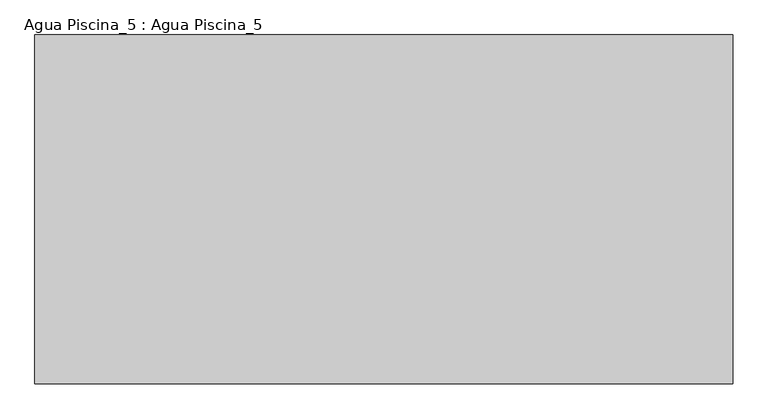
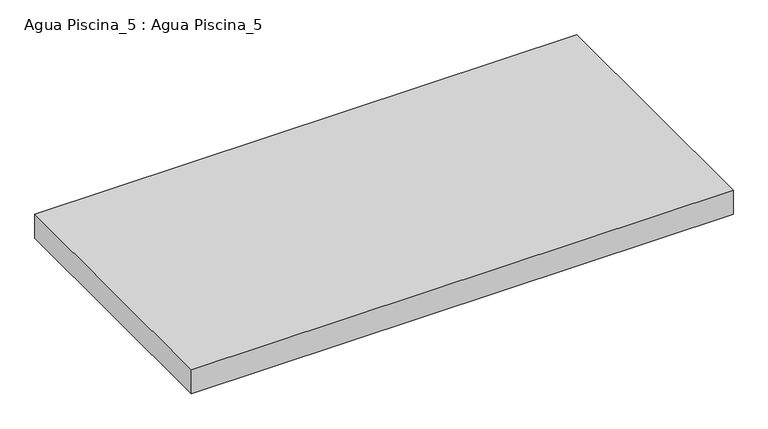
"""IFC4 building model written with IfcOpenShell, lengths in millimetres: proxy geometry, Agua Piscina_5 : Agua Piscina_5."""

from ifc_helpers import new_model, si_unit, frame, origin, place, context, project, spatial, polyline, outline, extrude, source, transform, mapped, element, save


def agua_piscina_5_agua_piscina_5_b9f0a899(model_context):
    return source(origin(), model_context, "Body", "SweptSolid", [
        extrude(outline(polyline([(-6726.7111281, -45617.7733672), (-6726.7111281, -49617.7733672), (-14726.7111281, -49617.7733672), (-14726.7111281, -45617.7733672), (-6726.7111281, -45617.7733672)])), frame((0.0, 0.0, -486.6767702), z_axis=(0.0, 0.0, 1.0), x_axis=(1.0, 0.0, 0.0)), (0.0, 0.0, 1.0), 374.8731759),
    ])


if __name__ == "__main__":
    model = new_model("IFC4")
    model_context = context("Model", 3, world=origin())
    ifc_project = project(units=[si_unit("LENGTHUNIT", "METRE", prefix="MILLI")], contexts=[model_context])
    site = spatial("IfcSite", under=ifc_project)
    building = spatial("IfcBuilding", under=site)
    placement = place(None, origin())
    agua_piscina_5_agua_piscina_5_shape = agua_piscina_5_agua_piscina_5_b9f0a899(model_context)
    element("IfcBuildingElementProxy", 1, Name="Agua Piscina_5 : Agua Piscina_5", ObjectType="Agua Piscina_5 : Agua Piscina_5", at=placement, inside=building, context=model_context, shape_type="MappedRepresentation", body=[
        mapped(agua_piscina_5_agua_piscina_5_shape, transform((0.0, 0.0, 0.0), x_axis=(1.0, 0.0, 0.0), y_axis=(0.0, 1.0, 0.0), z_axis=(0.0, 0.0, 1.0))),
    ])
    save(model, "model.ifc")
